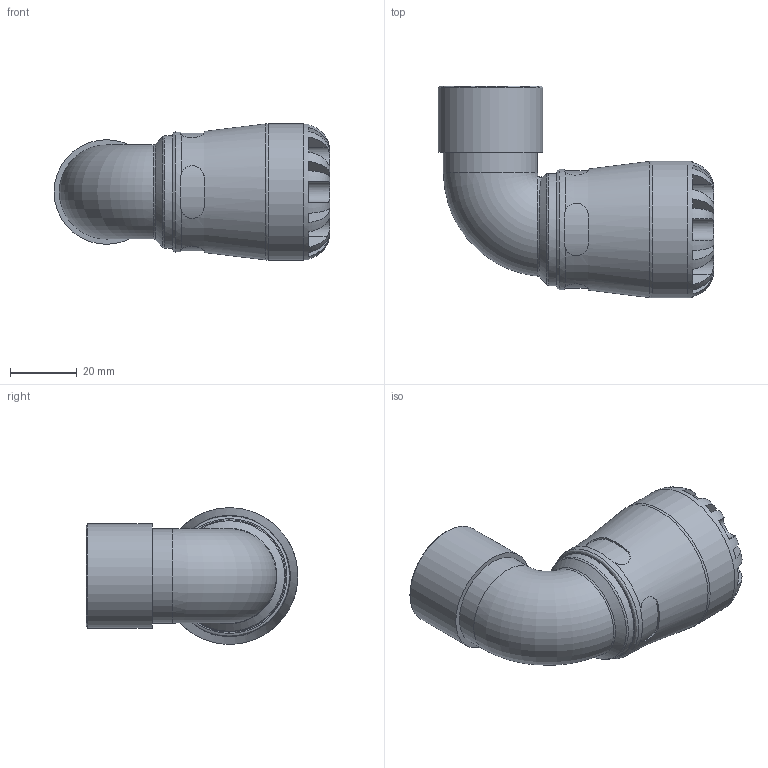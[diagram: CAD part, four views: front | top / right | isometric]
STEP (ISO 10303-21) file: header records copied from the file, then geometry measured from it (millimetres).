
FILE_DESCRIPTION(/* description */ ('PLASSON 90° ELBOW WITH THREADED FEMALE OFFTAKE 20X3/4" SERIES 1'),/* implementation_level */ '2;1');
FILE_NAME(/* name */ 'C:\Dropbox\KIMPROJECTS-Inventor\99-16-3568-Processing\S1\1015\101500020007_191500020007.ipt.stp',/* time_stamp */ '2017-07-30T11:51:53+03:00',/* author */ ('KIM'),/* organization */ (''),/* preprocessor_version */ 'ST-DEVELOPER v15.6',/* originating_system */ 'Autodesk Inventor 2015',/* authorisation */ '');
FILE_SCHEMA (('AUTOMOTIVE_DESIGN { 1 0 10303 214 3 1 1 }'));
Length unit declared in the file: millimetre
Products named in the file (1): 101500020007_191500020007
Bounding box: 82.68 x 63.5 x 41 mm (x, y, z)
Volume: 53923.9 mm3; surface area: 20398.7 mm2
Topology: 1 solids, 1 shells, 110 faces, 276 edges, 172 vertices
Faces by surface type: plane 62, cylinder 37, torus 6, bspline 3, cone 2
Full cylindrical faces by diameter (mm): 20 x1, 21.705 x2, 24.117 x1, 28.217 x1, 31.352 x1, 33.62 x1, 36.08 x1, 41 x1
Entity records: 4275 total; most frequent: CARTESIAN_POINT 1793, ORIENTED_EDGE 510, DIRECTION 493, EDGE_CURVE 255, AXIS2_PLACEMENT_3D 206, VERTEX_POINT 168, EDGE_LOOP 133, FACE_OUTER_BOUND 110
